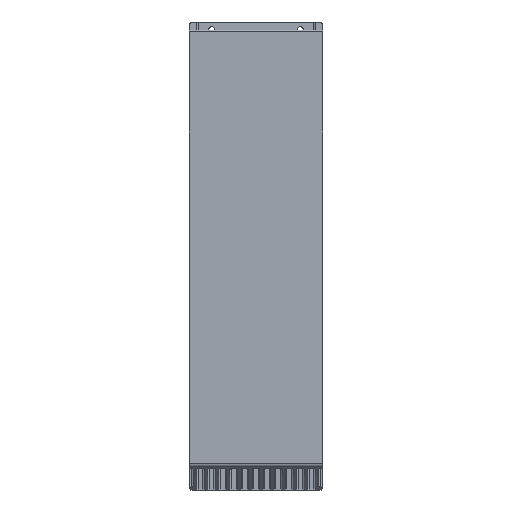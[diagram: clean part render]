
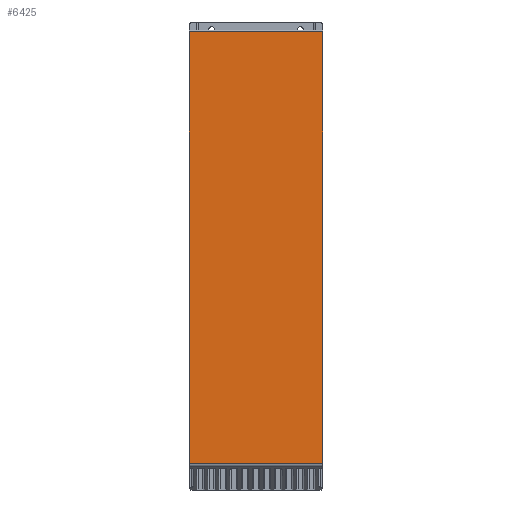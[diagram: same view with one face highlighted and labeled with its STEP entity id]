
A CAD part, front view. The second image highlights one B-rep face of the part: STEP entity #6425.
In plain terms, the highlighted planar face has unit normal (0, -1, 0).
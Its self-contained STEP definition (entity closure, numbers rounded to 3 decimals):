
#869=DIRECTION('',(0.,0.,-1.));
#870=VECTOR('',#869,66.265);
#871=CARTESIAN_POINT('',(10.24,-1.875,33.8));
#872=LINE('',#871,#870);
#877=DIRECTION('',(1.,0.,0.));
#878=VECTOR('',#877,20.48);
#879=CARTESIAN_POINT('',(-10.24,-1.875,33.8));
#880=LINE('',#879,#878);
#2097=DIRECTION('',(0.,0.,1.));
#2098=VECTOR('',#2097,66.265);
#2099=CARTESIAN_POINT('',(-10.24,-1.875,-32.465));
#2100=LINE('',#2099,#2098);
#2126=DIRECTION('',(-1.,0.,0.));
#2127=VECTOR('',#2126,20.48);
#2128=CARTESIAN_POINT('',(10.24,-1.875,-32.465));
#2129=LINE('',#2128,#2127);
#3551=CARTESIAN_POINT('',(10.24,-1.875,-32.465));
#3552=CARTESIAN_POINT('',(-10.24,-1.875,-32.465));
#3553=VERTEX_POINT('',#3551);
#3554=VERTEX_POINT('',#3552);
#3598=CARTESIAN_POINT('',(-10.24,-1.875,33.8));
#3599=VERTEX_POINT('',#3598);
#3709=CARTESIAN_POINT('',(10.24,-1.875,33.8));
#3710=VERTEX_POINT('',#3709);
#6413=CARTESIAN_POINT('',(-10.225,-1.875,-33.));
#6414=DIRECTION('',(0.,-1.,0.));
#6415=DIRECTION('',(0.,0.,-1.));
#6416=AXIS2_PLACEMENT_3D('',#6413,#6414,#6415);
#6417=PLANE('',#6416);
#6418=ORIENTED_EDGE('',*,*,#6401,.T.);
#6419=ORIENTED_EDGE('',*,*,#4931,.T.);
#6420=ORIENTED_EDGE('',*,*,#4918,.T.);
#6422=ORIENTED_EDGE('',*,*,#6421,.T.);
#6423=EDGE_LOOP('',(#6418,#6419,#6420,#6422));
#6424=FACE_OUTER_BOUND('',#6423,.F.);
#6425=ADVANCED_FACE('',(#6424),#6417,.T.);
#4918=EDGE_CURVE('',#3710,#3553,#872,.T.);
#4931=EDGE_CURVE('',#3599,#3710,#880,.T.);
#6401=EDGE_CURVE('',#3554,#3599,#2100,.T.);
#6421=EDGE_CURVE('',#3553,#3554,#2129,.T.);
